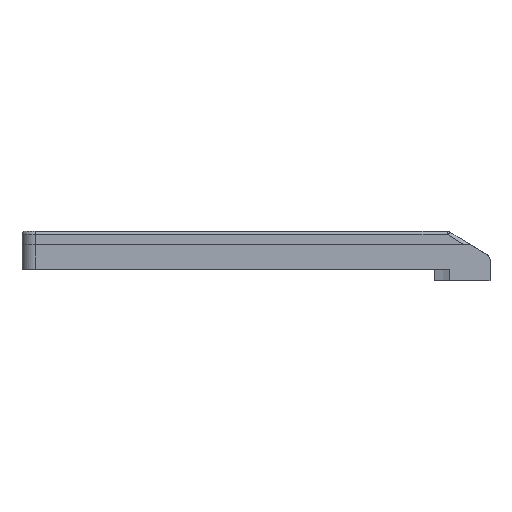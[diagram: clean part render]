
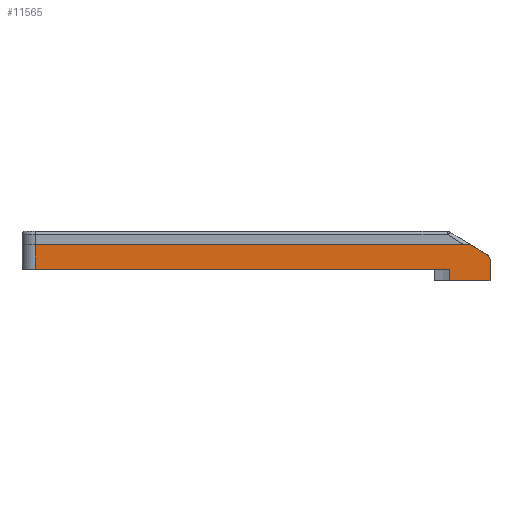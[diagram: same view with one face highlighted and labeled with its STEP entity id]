
A CAD part, left-side view. The second image highlights one B-rep face of the part: STEP entity #11565.
In plain terms, the highlighted planar face has unit normal (-1, 0, 0).
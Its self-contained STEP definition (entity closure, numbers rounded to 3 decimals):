
#714=CIRCLE('',#12219,0.4);
#1339=FACE_OUTER_BOUND('',#1971,.T.);
#1971=EDGE_LOOP('',(#9963,#9964,#9965,#9966,#9967,#9968,#9969,#9970));
#2148=LINE('',#15149,#3327);
#2913=LINE('',#19199,#4092);
#2997=LINE('',#19681,#4176);
#3050=LINE('',#19799,#4229);
#3059=LINE('',#19857,#4238);
#3060=LINE('',#19860,#4239);
#3062=LINE('',#19865,#4241);
#3327=VECTOR('',#12491,10.);
#4092=VECTOR('',#13932,10.);
#4176=VECTOR('',#14236,10.);
#4229=VECTOR('',#14315,10.);
#4238=VECTOR('',#14368,10.);
#4239=VECTOR('',#14371,10.);
#4241=VECTOR('',#14377,10.);
#4506=VERTEX_POINT('',#15146);
#4507=VERTEX_POINT('',#15148);
#5271=VERTEX_POINT('',#19188);
#5356=VERTEX_POINT('',#19678);
#5357=VERTEX_POINT('',#19680);
#5424=VERTEX_POINT('',#19855);
#5425=VERTEX_POINT('',#19859);
#5426=VERTEX_POINT('',#19863);
#5636=EDGE_CURVE('',#4507,#4506,#2148,.T.);
#6758=EDGE_CURVE('',#5271,#4507,#2913,.T.);
#6905=EDGE_CURVE('',#5357,#5356,#2997,.T.);
#6964=EDGE_CURVE('',#5356,#5271,#3050,.T.);
#6985=EDGE_CURVE('',#5357,#5424,#3059,.T.);
#6986=EDGE_CURVE('',#5425,#5424,#3060,.T.);
#6988=EDGE_CURVE('',#5426,#4506,#714,.T.);
#6989=EDGE_CURVE('',#5426,#5425,#3062,.T.);
#9963=ORIENTED_EDGE('',*,*,#6758,.T.);
#9964=ORIENTED_EDGE('',*,*,#5636,.T.);
#9965=ORIENTED_EDGE('',*,*,#6988,.F.);
#9966=ORIENTED_EDGE('',*,*,#6989,.T.);
#9967=ORIENTED_EDGE('',*,*,#6986,.T.);
#9968=ORIENTED_EDGE('',*,*,#6985,.F.);
#9969=ORIENTED_EDGE('',*,*,#6905,.T.);
#9970=ORIENTED_EDGE('',*,*,#6964,.T.);
#11030=PLANE('',#12218);
#11565=ADVANCED_FACE('',(#1339),#11030,.T.);
#12218=AXIS2_PLACEMENT_3D('',#19862,#14373,#14374);
#12219=AXIS2_PLACEMENT_3D('',#19864,#14375,#14376);
#12491=DIRECTION('',(0.,0.,1.));
#13932=DIRECTION('',(0.,-1.,0.));
#14236=DIRECTION('',(0.,-1.,0.));
#14315=DIRECTION('',(0.,0.,-1.));
#14368=DIRECTION('',(0.,0.,1.));
#14371=DIRECTION('',(0.,1.,0.));
#14373=DIRECTION('center_axis',(-1.,0.,0.));
#14374=DIRECTION('ref_axis',(0.,-1.,0.));
#14375=DIRECTION('center_axis',(1.,0.,0.));
#14376=DIRECTION('ref_axis',(0.,-0.873,0.489));
#14377=DIRECTION('',(0.,0.853,0.523));
#15146=CARTESIAN_POINT('',(-16.3,-17.5,-0.199));
#15148=CARTESIAN_POINT('',(-16.3,-17.5,-1.775));
#15149=CARTESIAN_POINT('',(-16.3,-17.5,0.));
#19188=CARTESIAN_POINT('',(-16.3,-14.5,-1.775));
#19199=CARTESIAN_POINT('',(-16.3,8.75,-1.775));
#19678=CARTESIAN_POINT('',(-16.3,-14.5,-0.925));
#19680=CARTESIAN_POINT('',(-16.3,16.5,-0.925));
#19681=CARTESIAN_POINT('',(-16.3,1.463,-0.925));
#19799=CARTESIAN_POINT('',(-16.3,-14.5,-0.463));
#19855=CARTESIAN_POINT('',(-16.3,16.5,0.925));
#19857=CARTESIAN_POINT('',(-16.3,16.5,0.));
#19859=CARTESIAN_POINT('',(-16.3,-16.032,0.925));
#19860=CARTESIAN_POINT('',(-16.3,8.75,0.925));
#19862=CARTESIAN_POINT('Origin',(-16.3,17.5,0.));
#19863=CARTESIAN_POINT('',(-16.3,-17.309,0.142));
#19864=CARTESIAN_POINT('Origin',(-16.3,-17.1,-0.199));
#19865=CARTESIAN_POINT('',(-16.3,-4.784,7.818));
